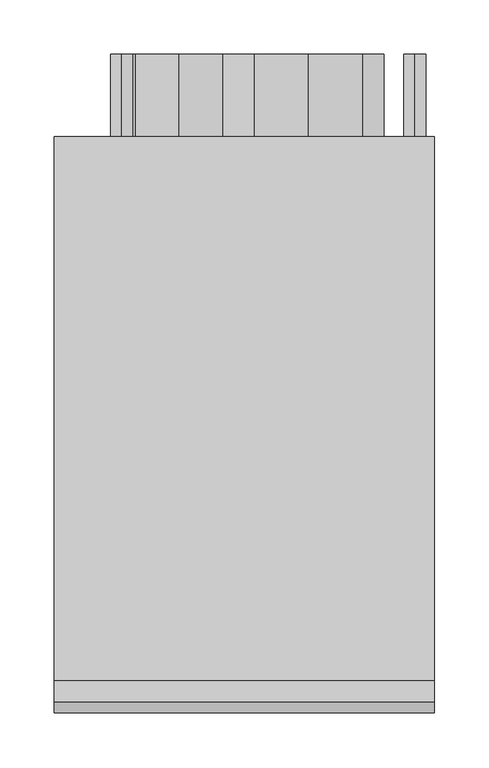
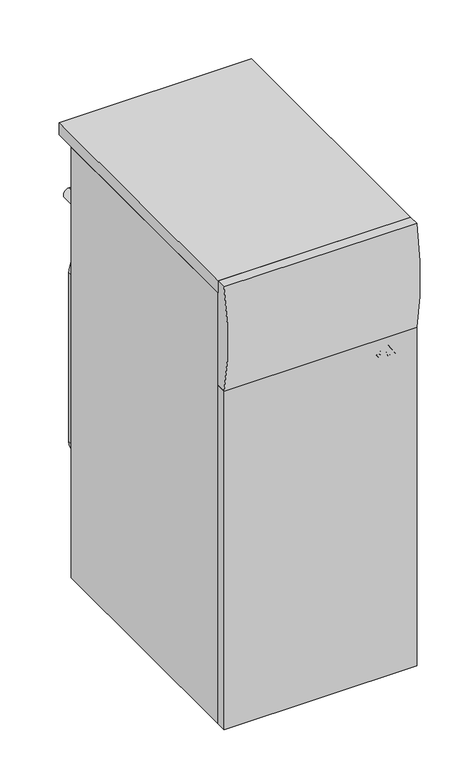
"""IFC4 building model written with IfcOpenShell, lengths in millimetres: proxy geometry, BAXI_ГазовыйКотел_Slim-Fi : BAXI_Газовый котел_Slim_1.230_Fi."""

import ifcopenshell
import ifcopenshell.guid

model = None  # the IFC model being written
_history = None  # IfcOwnerHistory: only IFC2X3 demands one
_inside = {}  # id of a spatial element -> (the spatial element, [elements in it])
_under = {}  # id of a project, library or spatial element -> (it, [spatial elements below it])
_declared = {}  # id of a project -> (the project, [libraries it declares])
_typed = {}  # id of a type object -> (the type object, [elements of that type])
_made_of = {}  # id of a material, layer set ... -> (it, [elements and type objects made of it])


def new_model(schema):
    """Start an empty IFC model of exactly this schema.

    Asked for "IFC4X3", IfcOpenShell would pick the latest addendum, in which some entities
    have other attributes; the version numbers below select the first issue.
    IFC2X3 requires an IfcOwnerHistory on every rooted entity: one is made here for all.
    """
    global model, _history
    if schema == "IFC4X3":
        model = ifcopenshell.file(schema_version=(4, 3, 0, 0))
    else:
        model = ifcopenshell.file(schema=schema)
    _inside.clear()
    _under.clear()
    _declared.clear()
    _typed.clear()
    _made_of.clear()
    _history = None
    if model.schema == "IFC2X3":
        org = make("IfcOrganization", Name="unknown")
        user = make(
            "IfcPersonAndOrganization",
            ThePerson=make("IfcPerson", FamilyName="unknown"),
            TheOrganization=org,
        )
        app = make(
            "IfcApplication",
            ApplicationDeveloper=org,
            Version="unknown",
            ApplicationFullName="unknown",
            ApplicationIdentifier="unknown",
        )
        _history = make(
            "IfcOwnerHistory",
            OwningUser=user,
            OwningApplication=app,
            ChangeAction="ADDED",
            CreationDate=0,
        )
    return model


def make(cls, **values):
    """One entity of the class cls with the attributes given. An attribute that is None is left unset."""
    return model.create_entity(
        cls, **{name: value for name, value in values.items() if value is not None}
    )


def rooted(cls, **values):
    """An entity with a GlobalId (a new one), such as an element, a storey or a relation."""
    return make(cls, GlobalId=ifcopenshell.guid.new(), OwnerHistory=_history, **values)


def si_unit(unit_type, name, prefix=None):
    """IfcSIUnit, for example si_unit("LENGTHUNIT", "METRE", prefix="MILLI")."""
    return make("IfcSIUnit", UnitType=unit_type, Prefix=prefix, Name=name)


def assignment(units):
    """IfcUnitAssignment: the units of a project."""
    return None if units is None else make("IfcUnitAssignment", Units=units)


def point(xyz):
    """IfcCartesianPoint."""
    return None if xyz is None else make("IfcCartesianPoint", Coordinates=xyz)


def direction(xyz):
    """IfcDirection."""
    return None if xyz is None else make("IfcDirection", DirectionRatios=xyz)


def frame(location, z_axis=None, x_axis=None):
    """IfcAxis2Placement3D, a coordinate frame: its origin and axes. An axis left out is left unset."""
    return make(
        "IfcAxis2Placement3D",
        Location=point(location),
        Axis=direction(z_axis),
        RefDirection=direction(x_axis),
    )


def frame_2d(location, x_axis=None):
    """IfcAxis2Placement2D, a coordinate frame in the plane: its origin and x axis."""
    return make(
        "IfcAxis2Placement2D", Location=point(location), RefDirection=direction(x_axis)
    )


def origin():
    """The frame at (0, 0, 0) with its axes left unset."""
    return frame((0.0, 0.0, 0.0))


def origin_with_axes():
    """The frame at (0, 0, 0) with the z axis (0, 0, 1) and the x axis (1, 0, 0) written out."""
    return frame((0.0, 0.0, 0.0), z_axis=(0.0, 0.0, 1.0), x_axis=(1.0, 0.0, 0.0))


def place(relative_to, where):
    """IfcLocalPlacement: puts the frame where relative to a parent placement (None: the world)."""
    return make(
        "IfcLocalPlacement", PlacementRelTo=relative_to, RelativePlacement=where
    )


def context(
    kind, dimensions, precision=None, world=None, true_north=None, identifier=None
):
    """IfcGeometricRepresentationContext, for example the 3D "Model" context."""
    return make(
        "IfcGeometricRepresentationContext",
        ContextIdentifier=identifier,
        ContextType=kind,
        CoordinateSpaceDimension=dimensions,
        Precision=precision,
        WorldCoordinateSystem=world,
        TrueNorth=true_north,
    )


def project(units=None, contexts=None):
    """IfcProject with its units and contexts."""
    return rooted(
        "IfcProject",
        Name="project",
        RepresentationContexts=contexts,
        UnitsInContext=assignment(units),
    )


def spatial(cls, under=None, at=None, **own):
    """A site, building, storey or space (cls), placed at a placement, below another one or the project."""
    s = rooted(cls, ObjectPlacement=at, **own)
    if under is not None:
        _under.setdefault(under.id(), (under, []))[1].append(s)
    return s


def polyline(points):
    """IfcPolyline through the points."""
    return make("IfcPolyline", Points=[point(p) for p in points])


def circle_curve(where, radius):
    """IfcCircle in the frame where."""
    return make("IfcCircle", Position=where, Radius=radius)


def trimmed(basis, trim1, trim2, sense, master):
    """IfcTrimmedCurve: the piece of a basis curve between two trims."""
    return make(
        "IfcTrimmedCurve",
        BasisCurve=basis,
        Trim1=trim1,
        Trim2=trim2,
        SenseAgreement=sense,
        MasterRepresentation=master,
    )


def segment(curve, same_sense, transition):
    """IfcCompositeCurveSegment."""
    return make(
        "IfcCompositeCurveSegment",
        Transition=transition,
        SameSense=same_sense,
        ParentCurve=curve,
    )


def composite_curve(segments, self_intersect=None):
    """IfcCompositeCurve: segments joined end to end."""
    return make("IfcCompositeCurve", Segments=segments, SelfIntersect=self_intersect)


def outline(outer, holes=None, kind="AREA"):
    """IfcArbitraryClosedProfileDef: a profile drawn as a closed curve; with holes, ...WithVoids."""
    if holes is None:
        return make("IfcArbitraryClosedProfileDef", ProfileType=kind, OuterCurve=outer)
    return make(
        "IfcArbitraryProfileDefWithVoids",
        ProfileType=kind,
        OuterCurve=outer,
        InnerCurves=holes,
    )


def extrude(swept, where, along, depth):
    """IfcExtrudedAreaSolid: the profile swept, set in the frame where, extruded along a direction by depth."""
    return make(
        "IfcExtrudedAreaSolid",
        SweptArea=swept,
        Position=where,
        ExtrudedDirection=direction(along),
        Depth=depth,
    )


def shape(context_of_items, identifier, shape_type, items):
    """IfcShapeRepresentation: the items that make up one representation, for example the "Body"."""
    return make(
        "IfcShapeRepresentation",
        ContextOfItems=context_of_items,
        RepresentationIdentifier=identifier,
        RepresentationType=shape_type,
        Items=items,
    )


def source(mapping_origin, context_of_items, identifier, shape_type, items):
    """IfcRepresentationMap: a shape defined once, which mapped items show again and again."""
    return make(
        "IfcRepresentationMap",
        MappingOrigin=mapping_origin,
        MappedRepresentation=shape(context_of_items, identifier, shape_type, items),
    )


def transform(
    local_origin,
    x_axis=None,
    y_axis=None,
    z_axis=None,
    scale=None,
    scale2=None,
    scale3=None,
    uniform=True,
):
    """IfcCartesianTransformationOperator3D, or its non-uniform kind. x_axis, y_axis, z_axis: its Axis1, 2, 3."""
    if uniform:
        return make(
            "IfcCartesianTransformationOperator3D",
            Axis1=direction(x_axis),
            Axis2=direction(y_axis),
            LocalOrigin=point(local_origin),
            Scale=scale,
            Axis3=direction(z_axis),
        )
    return make(
        "IfcCartesianTransformationOperator3DnonUniform",
        Axis1=direction(x_axis),
        Axis2=direction(y_axis),
        LocalOrigin=point(local_origin),
        Scale=scale,
        Axis3=direction(z_axis),
        Scale2=scale2,
        Scale3=scale3,
    )


def mapped(mapping_source, mapping_target):
    """IfcMappedItem: shows the shape of a source again, moved by a transform."""
    return make(
        "IfcMappedItem", MappingSource=mapping_source, MappingTarget=mapping_target
    )


def made_of(thing, what):
    """Note that an element or type object is made of a material, layer set ...; save() writes the relation."""
    if what is not None:
        _made_of.setdefault(what.id(), (what, []))[1].append(thing)
    return thing


def element(
    cls,
    number,
    at=None,
    inside=None,
    cuts=None,
    type_object=None,
    material=None,
    context=None,
    identifier="Body",
    shape_type=None,
    held_by="IfcProductDefinitionShape",
    body=None,
    shapes=None,
    **own,
):
    """One element of the class cls, such as IfcWall. Its Tag is "e" and its number.

    at: its placement. inside: the storey or other place that contains it. cuts: it is an
    opening in that element (IfcRelVoidsElement). A single representation is given by context,
    identifier, shape_type and body (its items); several are given by shapes. held_by: the class
    of the entity that holds the representations. save() writes the other relations.
    """
    e = rooted(cls, Tag="e%d" % number, ObjectPlacement=at, **own)
    if body is not None:
        shapes = [shape(context, identifier, shape_type, body)]
    if shapes is not None:
        e.Representation = make(held_by, Representations=shapes)
    if inside is not None:
        _inside.setdefault(inside.id(), (inside, []))[1].append(e)
    if cuts is not None:
        rooted(
            "IfcRelVoidsElement", RelatingBuildingElement=cuts, RelatedOpeningElement=e
        )
    if type_object is not None:
        _typed.setdefault(type_object.id(), (type_object, []))[1].append(e)
    return made_of(e, material)


def aggregate(whole, parts):
    """IfcRelAggregates: a whole, such as a stair, and the parts it consists of."""
    return rooted("IfcRelAggregates", RelatingObject=whole, RelatedObjects=parts)


def save(model, path):
    """Write the relations noted so far, then the file.

    IfcRelAggregates (storeys below a building ...), IfcRelContainedInSpatialStructure (elements
    in a storey), IfcRelDefinesByType, IfcRelAssociatesMaterial and IfcRelDeclares: one each for
    every whole, place, type object, material and project.
    """
    for whole, parts in _under.values():
        aggregate(whole, parts)
    for where, things in _inside.values():
        rooted(
            "IfcRelContainedInSpatialStructure",
            RelatedElements=things,
            RelatingStructure=where,
        )
    for kind, things in _typed.values():
        rooted("IfcRelDefinesByType", RelatedObjects=things, RelatingType=kind)
    for what, things in _made_of.values():
        rooted("IfcRelAssociatesMaterial", RelatedObjects=things, RelatingMaterial=what)
    for by, libraries in _declared.values():
        rooted("IfcRelDeclares", RelatingContext=by, RelatedDefinitions=libraries)
    model.write(path)


def mechanical_equipment_b090fe39(model_context):
    return source(origin(), model_context, "Body", "SweptSolid", [
        extrude(outline(composite_curve([segment(trimmed(circle_curve(frame_2d((494.1898447, -59.2978254)), 53.816472), [point((548.0063167, -59.2978254))], [point((494.1898447, -113.1142973))], False, "CARTESIAN"), True, "CONTINUOUS"), segment(polyline([(494.1898447, -113.1142973), (170.9898243, -113.1142973)]), True, "CONTINUOUS"), segment(trimmed(circle_curve(frame_2d((170.9898243, -73.697982)), 39.4163154), [point((170.9898243, -113.1142973))], [point((131.573509, -73.697982))], False, "CARTESIAN"), True, "CONTINUOUS"), segment(polyline([(131.573509, -73.697982), (131.573509, 86.2223968)]), True, "CONTINUOUS"), segment(trimmed(circle_curve(frame_2d((173.6414229, 86.2223968)), 42.0679139), [point((131.573509, 86.2223968))], [point((173.6414229, 128.2903108))], False, "CARTESIAN"), True, "CONTINUOUS"), segment(polyline([(173.6414229, 128.2903108), (495.9014097, 128.2903108)]), True, "CONTINUOUS"), segment(trimmed(circle_curve(frame_2d((495.9014097, 76.1854038)), 52.104907), [point((495.9014097, 128.2903108))], [point((548.0063167, 76.1854038))], False, "CARTESIAN"), True, "CONTINUOUS"), segment(polyline([(548.0063167, 76.1854038), (548.0063167, -59.2978254)]), True, "CONTINUOUS")], self_intersect=False)), frame((0.0, -115.0, 0.0), z_axis=(0.0, 1.0, 0.0), x_axis=(0.0, 0.0, 1.0)), (0.0, 0.0, 1.0), 115.0),
        extrude(outline(polyline([(175.0, -76.0), (175.0, -576.5), (-175.0, -576.5), (-175.0, -76.0), (175.0, -76.0)])), frame((0.0, 0.0, 827.0), z_axis=(0.0, 0.0, 1.0), x_axis=(1.0, 0.0, 0.0)), (0.0, 0.0, 1.0), 23.0),
        extrude(outline(composite_curve([segment(trimmed(circle_curve(frame_2d((731.0, 59.0)), 50.0), [point((681.0, 59.0))], [point((781.0, 59.0))], False, "CARTESIAN"), True, "CONTINUOUS"), segment(trimmed(circle_curve(frame_2d((731.0, 59.0)), 50.0), [point((781.0, 59.0))], [point((681.0, 59.0))], False, "CARTESIAN"), True, "CONTINUOUS")], self_intersect=False)), frame((0.0, -115.0, 0.0), z_axis=(0.0, 1.0, 0.0), x_axis=(0.0, 0.0, 1.0)), (0.0, 0.0, 1.0), 115.0),
        extrude(outline(composite_curve([segment(trimmed(circle_curve(frame_2d((749.0, -60.0)), 40.0), [point((709.0, -60.0))], [point((789.0, -60.0))], False, "CARTESIAN"), True, "CONTINUOUS"), segment(trimmed(circle_curve(frame_2d((749.0, -60.0)), 40.0), [point((789.0, -60.0))], [point((709.0, -60.0))], False, "CARTESIAN"), True, "CONTINUOUS")], self_intersect=False)), frame((0.0, -115.0, 0.0), z_axis=(0.0, 1.0, 0.0), x_axis=(0.0, 0.0, 1.0)), (0.0, 0.0, 1.0), 115.0),
        extrude(outline(composite_curve([segment(polyline([(-576.5, 850.0), (-576.5, 650.0), (-596.0, 650.0)]), True, "CONTINUOUS"), segment(trimmed(circle_curve(frame_2d((-176.6205689, 749.7750829)), 431.0848807), [point((-596.0, 650.0))], [point((-595.8927244, 850.0))], False, "CARTESIAN"), True, "CONTINUOUS"), segment(polyline([(-595.8927244, 850.0), (-576.5, 850.0)]), True, "CONTINUOUS")], self_intersect=False)), frame((-175.0, 0.0, 0.0), z_axis=(1.0, 0.0, 0.0), x_axis=(0.0, 1.0, 0.0)), (0.0, 0.0, 1.0), 350.0),
        extrude(outline(polyline([(175.0, -576.5), (175.0, -596.0), (-175.0, -596.0), (-175.0, -576.5), (175.0, -576.5)])), origin_with_axes(), (0.0, 0.0, 1.0), 650.0),
        extrude(outline(composite_curve([segment(trimmed(circle_curve(frame_2d((453.0, 157.0)), 7.5), [point((445.5, 157.0))], [point((460.5, 157.0))], False, "CARTESIAN"), True, "CONTINUOUS"), segment(trimmed(circle_curve(frame_2d((453.0, 157.0)), 7.5), [point((460.5, 157.0))], [point((445.5, 157.0))], False, "CARTESIAN"), True, "CONTINUOUS")], self_intersect=False)), frame((0.0, -115.0, 0.0), z_axis=(0.0, 1.0, 0.0), x_axis=(0.0, 0.0, 1.0)), (0.0, 0.0, 1.0), 115.0),
        extrude(outline(composite_curve([segment(trimmed(circle_curve(frame_2d((522.0, 157.0)), 10.0), [point((512.0, 157.0))], [point((532.0, 157.0))], False, "CARTESIAN"), True, "CONTINUOUS"), segment(trimmed(circle_curve(frame_2d((522.0, 157.0)), 10.0), [point((532.0, 157.0))], [point((512.0, 157.0))], False, "CARTESIAN"), True, "CONTINUOUS")], self_intersect=False)), frame((0.0, -115.0, 0.0), z_axis=(0.0, 1.0, 0.0), x_axis=(0.0, 0.0, 1.0)), (0.0, 0.0, 1.0), 115.0),
        extrude(outline(composite_curve([segment(trimmed(circle_curve(frame_2d((647.0, -113.0)), 10.0), [point((637.0, -113.0))], [point((657.0, -113.0))], False, "CARTESIAN"), True, "CONTINUOUS"), segment(trimmed(circle_curve(frame_2d((647.0, -113.0)), 10.0), [point((657.0, -113.0))], [point((637.0, -113.0))], False, "CARTESIAN"), True, "CONTINUOUS")], self_intersect=False)), frame((0.0, -115.0, 0.0), z_axis=(0.0, 1.0, 0.0), x_axis=(0.0, 0.0, 1.0)), (0.0, 0.0, 1.0), 115.0),
        extrude(outline(composite_curve([segment(trimmed(circle_curve(frame_2d((72.0, 97.0)), 10.0), [point((62.0, 97.0))], [point((82.0, 97.0))], False, "CARTESIAN"), True, "CONTINUOUS"), segment(trimmed(circle_curve(frame_2d((72.0, 97.0)), 10.0), [point((82.0, 97.0))], [point((62.0, 97.0))], False, "CARTESIAN"), True, "CONTINUOUS")], self_intersect=False)), frame((0.0, -115.0, 0.0), z_axis=(0.0, 1.0, 0.0), x_axis=(0.0, 0.0, 1.0)), (0.0, 0.0, 1.0), 115.0),
        extrude(outline(polyline([(175.0, -115.0), (175.0, -576.5), (-175.0, -576.5), (-175.0, -115.0), (175.0, -115.0)])), origin_with_axes(), (0.0, 0.0, 1.0), 827.0),
        extrude(outline(polyline([(629.3832395, 97.0653673), (614.0793485, 97.0653673), (614.0793485, 102.295715), (614.1818299, 106.0381844), (614.9048932, 108.1200753), (616.4724793, 109.4523337), (618.4936405, 109.9400693), (620.7899832, 109.2606555), (622.1715845, 107.3173042), (623.5266165, 108.8791969), (625.5079238, 109.4542315), (627.3089398, 108.9721893), (628.5956508, 107.7670838), (629.2314152, 106.1273812), (629.3832395, 103.3470984), (629.3832395, 97.0653673)]), holes=[polyline([(626.7111315, 99.9803942), (626.7111315, 101.9313367), (623.3596098, 104.6717655), (623.3102669, 102.2046204), (623.3102669, 99.9803942), (626.7111315, 99.9803942)]), polyline([(620.6381589, 99.9803942), (620.6381589, 102.6714802), (616.842551, 105.3473837), (616.7514564, 103.0624278), (616.7514564, 99.9803942), (620.6381589, 99.9803942)])]), frame((0.0, -596.0, 0.0), z_axis=(0.0, 1.0, 0.0), x_axis=(0.0, 0.0, 1.0)), (0.0, 0.0, 1.0), 5.0),
        extrude(outline(polyline([(614.0793485, 125.2439603), (629.3832395, 119.603687), (629.3832395, 116.4988797), (614.0793485, 110.9117449), (614.0793485, 114.0165522), (617.4802132, 115.2007818), (617.4802132, 120.9814926), (614.0793485, 122.1809047), (614.0793485, 125.2439603)]), holes=[polyline([(620.1523211, 120.0477731), (620.1523211, 116.1345014), (625.7394559, 118.0778526), (620.1523211, 120.0477731)])]), frame((0.0, -596.0, 0.0), z_axis=(0.0, 1.0, 0.0), x_axis=(0.0, 0.0, 1.0)), (0.0, 0.0, 1.0), 5.0),
        extrude(outline(polyline([(614.0793485, 125.3654197), (614.0793485, 128.7738756), (619.4842941, 132.2886085), (614.0793485, 135.8033414), (614.0793485, 139.2117973), (622.1032636, 133.9928365), (629.3832395, 138.7259595), (629.3832395, 135.3175036), (624.7260286, 132.2886085), (629.3832395, 129.2597134), (629.3832395, 125.8512576), (622.1032636, 130.5843806), (614.0793485, 125.3654197)])), frame((0.0, -596.0, 0.0), z_axis=(0.0, 1.0, 0.0), x_axis=(0.0, 0.0, 1.0)), (0.0, 0.0, 1.0), 5.0),
        extrude(outline(polyline([(140.7907702, -591.0), (143.7057971, -591.0), (143.7057971, -596.0), (140.7907702, -596.0), (140.7907702, -591.0)])), frame((0.0, 0.0, 614.0793485), z_axis=(0.0, 0.0, 1.0), x_axis=(1.0, 0.0, 0.0)), (0.0, 0.0, 1.0), 15.303891),
    ])


if __name__ == "__main__":
    model = new_model("IFC4")
    model_context = context("Model", 3, world=origin())
    ifc_project = project(units=[si_unit("LENGTHUNIT", "METRE", prefix="MILLI")], contexts=[model_context])
    site = spatial("IfcSite", under=ifc_project)
    building = spatial("IfcBuilding", under=site)
    placement = place(None, origin())
    mechanical_equipment_shape = mechanical_equipment_b090fe39(model_context)
    element("IfcBuildingElementProxy", 1, Name="BAXI_ГазовыйКотел_Slim-Fi : BAXI_Газовый котел_Slim_1.230_Fi", ObjectType="BAXI_ГазовыйКотел_Slim-Fi : BAXI_Газовый котел_Slim_1.230_Fi", at=placement, inside=building, context=model_context, shape_type="MappedRepresentation", body=[
        mapped(mechanical_equipment_shape, transform((0.0, 0.0, 0.0), x_axis=(1.0, 0.0, 0.0), y_axis=(0.0, 1.0, 0.0), z_axis=(0.0, 0.0, 1.0))),
    ])
    save(model, "model.ifc")
